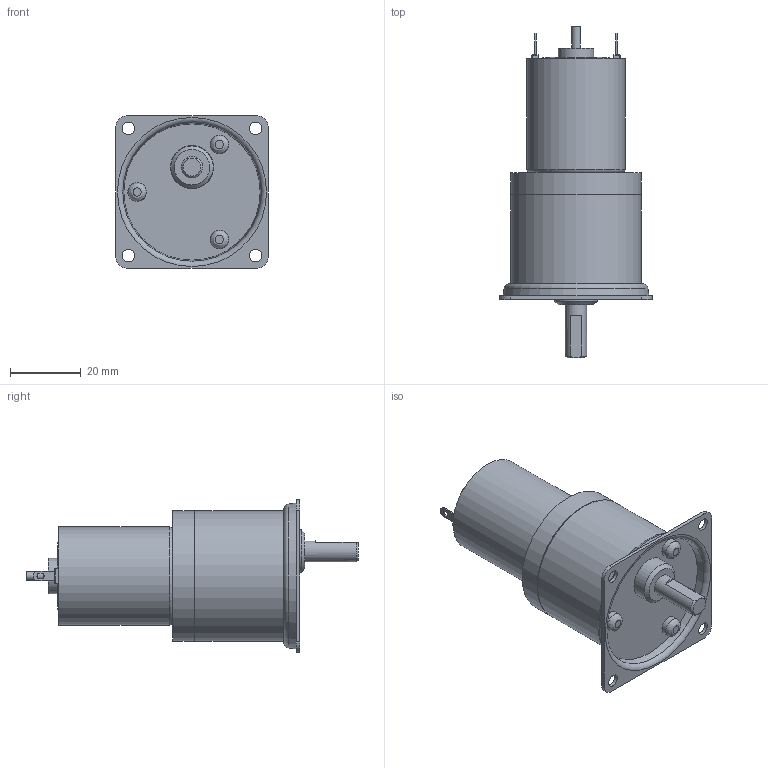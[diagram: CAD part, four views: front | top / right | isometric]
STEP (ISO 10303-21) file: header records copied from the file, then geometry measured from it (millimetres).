
FILE_DESCRIPTION((''),'2;1');
FILE_NAME('C:\Documents and Settings\SSEGAWA\デスクトップ\TP-2732D-PHM-5.STP','2013-07-01T13:55:56',('SSEGAWA'),(''),'Autodesk Inventor 2010','Autodesk Inventor 2010','');
FILE_SCHEMA(('CONFIG_CONTROL_DESIGN'));
Length unit declared in the file: millimetre
Products named in the file (5): tp_2732def_phm_5; phm_5; hm_5; □43; tp_2732d,e,f
Assembly tree (4 placements, depth 3):
  tp_2732def_phm_5
    phm_5
      hm_5
      □43
    tp_2732d,e,f
Bounding box: 43 x 93.8 x 43 mm (x, y, z)
Volume: 56447.5 mm3; surface area: 15433.9 mm2
Topology: 3 solids, 3 shells, 177 faces, 391 edges, 251 vertices
Faces by surface type: plane 96, cylinder 43, bspline 28, torus 6, cone 4
Full cylindrical faces by diameter (mm): 2 x2, 2.305 x2, 2.5 x5, 5.3 x3, 6 x1, 9 x2, 10 x2, 12 x1, 12.2 x1, 19 x1, 26.7 x1, 27.7 x1, 36.6 x1, 37 x2
Entity records: 4939 total; most frequent: CARTESIAN_POINT 1198, DIRECTION 765, ORIENTED_EDGE 636, EDGE_CURVE 318, AXIS2_PLACEMENT_3D 291, EDGE_LOOP 275, VERTEX_POINT 231, VECTOR 183
